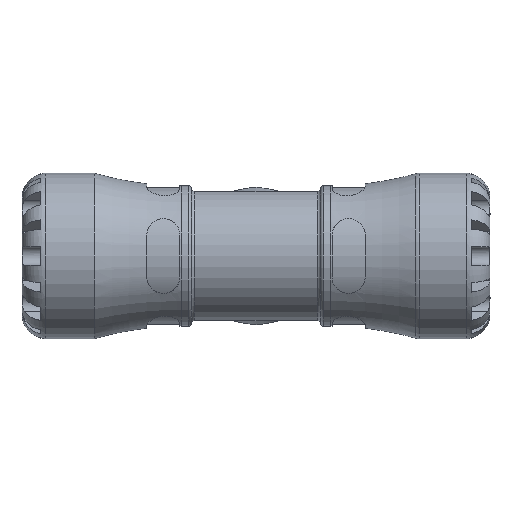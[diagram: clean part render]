
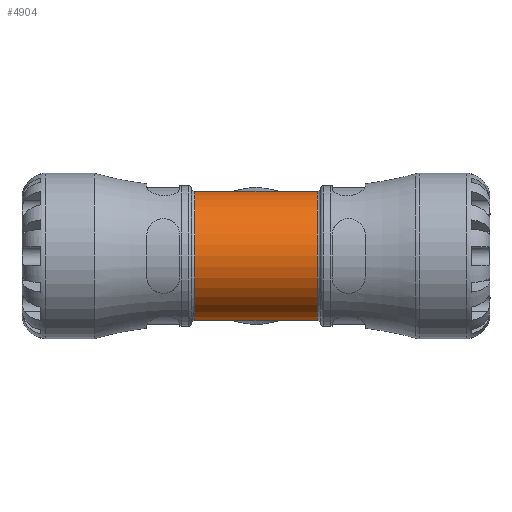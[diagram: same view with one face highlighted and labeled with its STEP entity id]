
A CAD part, front view. The second image highlights one B-rep face of the part: STEP entity #4904.
In plain terms, the highlighted cylindrical face has radius 27.3 mm (diameter 54.6 mm), a full revolution.
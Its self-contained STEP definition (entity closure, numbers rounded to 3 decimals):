
#407=FACE_BOUND('',#1323,.T.);
#426=LINE('',#7461,#682);
#682=VECTOR('',#5821,27.3);
#937=CYLINDRICAL_SURFACE('',#5214,27.3);
#1035=FACE_OUTER_BOUND('',#1322,.T.);
#1322=EDGE_LOOP('',(#3393,#3394,#3395,#3396));
#1323=EDGE_LOOP('',(#3397));
#1626=B_SPLINE_CURVE_WITH_KNOTS('',3,(#7420,#7421,#7422,#7423,#7424,#7425,
#7426,#7427,#7428,#7429,#7430,#7431,#7432,#7433,#7434,#7435,#7436,#7437,
#7438,#7439,#7440,#7441,#7442,#7443,#7444,#7445,#7446),.UNSPECIFIED.,.T.,
 .F.,(4,1,1,1,1,1,1,1,1,1,1,1,1,1,1,1,1,1,1,1,1,1,1,1,4),(-14.744,
-14.217,-13.691,-12.638,-12.111,
-11.584,-11.058,-10.531,-9.829,
-9.127,-8.425,-8.074,-7.723,
-7.372,-7.021,-6.319,-5.617,
-4.915,-4.213,-3.51,-2.808,
-2.106,-1.053,-0.527,0.),
 .UNSPECIFIED.);
#1825=CIRCLE('',#5215,27.3);
#1826=CIRCLE('',#5216,27.3);
#2129=VERTEX_POINT('',#7385);
#2136=VERTEX_POINT('',#7458);
#2137=VERTEX_POINT('',#7460);
#2621=EDGE_CURVE('',#2129,#2129,#1626,.T.);
#2627=EDGE_CURVE('',#2136,#2136,#1825,.T.);
#2628=EDGE_CURVE('',#2136,#2137,#426,.T.);
#2629=EDGE_CURVE('',#2137,#2137,#1826,.T.);
#3393=ORIENTED_EDGE('',*,*,#2627,.F.);
#3394=ORIENTED_EDGE('',*,*,#2628,.T.);
#3395=ORIENTED_EDGE('',*,*,#2629,.F.);
#3396=ORIENTED_EDGE('',*,*,#2628,.F.);
#3397=ORIENTED_EDGE('',*,*,#2621,.F.);
#4904=ADVANCED_FACE('',(#1035,#407),#937,.T.);
#5214=AXIS2_PLACEMENT_3D('',#7457,#5817,#5818);
#5215=AXIS2_PLACEMENT_3D('',#7459,#5819,#5820);
#5216=AXIS2_PLACEMENT_3D('',#7462,#5822,#5823);
#5817=DIRECTION('center_axis',(1.,0.,0.));
#5818=DIRECTION('ref_axis',(0.,1.,0.));
#5819=DIRECTION('center_axis',(1.,0.,0.));
#5820=DIRECTION('ref_axis',(0.,1.,0.));
#5821=DIRECTION('',(-1.,0.,0.));
#5822=DIRECTION('center_axis',(-1.,0.,0.));
#5823=DIRECTION('ref_axis',(0.,1.,0.));
#7385=CARTESIAN_POINT('',(0.,15.11,22.737));
#7420=CARTESIAN_POINT('Ctrl Pts',(0.,15.11,
22.737));
#7421=CARTESIAN_POINT('Ctrl Pts',(1.864,15.11,22.737));
#7422=CARTESIAN_POINT('Ctrl Pts',(5.566,15.812,22.286));
#7423=CARTESIAN_POINT('Ctrl Pts',(11.973,18.833,19.971));
#7424=CARTESIAN_POINT('Ctrl Pts',(17.158,22.492,15.992));
#7425=CARTESIAN_POINT('Ctrl Pts',(20.963,25.401,10.4));
#7426=CARTESIAN_POINT('Ctrl Pts',(22.864,26.93,5.449));
#7427=CARTESIAN_POINT('Ctrl Pts',(23.548,27.485,0.002));
#7428=CARTESIAN_POINT('Ctrl Pts',(22.789,26.869,-6.058));
#7429=CARTESIAN_POINT('Ctrl Pts',(20.214,24.804,-11.993));
#7430=CARTESIAN_POINT('Ctrl Pts',(15.891,21.564,-17.044));
#7431=CARTESIAN_POINT('Ctrl Pts',(11.367,18.616,-20.059));
#7432=CARTESIAN_POINT('Ctrl Pts',(7.18,16.567,-21.72));
#7433=CARTESIAN_POINT('Ctrl Pts',(3.724,15.416,-22.538));
#7434=CARTESIAN_POINT('Ctrl Pts',(0.003,14.955,
-22.838));
#7435=CARTESIAN_POINT('Ctrl Pts',(-4.973,15.573,-22.437));
#7436=CARTESIAN_POINT('Ctrl Pts',(-10.468,18.037,-20.656));
#7437=CARTESIAN_POINT('Ctrl Pts',(-15.887,21.559,-17.048));
#7438=CARTESIAN_POINT('Ctrl Pts',(-20.213,24.805,-11.991));
#7439=CARTESIAN_POINT('Ctrl Pts',(-23.027,27.057,-5.522));
#7440=CARTESIAN_POINT('Ctrl Pts',(-23.651,27.573,1.871));
#7441=CARTESIAN_POINT('Ctrl Pts',(-21.851,26.1,8.923));
#7442=CARTESIAN_POINT('Ctrl Pts',(-17.59,22.794,15.662));
#7443=CARTESIAN_POINT('Ctrl Pts',(-11.974,18.835,19.97));
#7444=CARTESIAN_POINT('Ctrl Pts',(-5.566,15.811,22.287));
#7445=CARTESIAN_POINT('Ctrl Pts',(-1.864,15.11,22.737));
#7446=CARTESIAN_POINT('Ctrl Pts',(0.,15.11,
22.737));
#7457=CARTESIAN_POINT('Origin',(13.65,0.,0.));
#7458=CARTESIAN_POINT('',(25.922,-27.3,0.));
#7459=CARTESIAN_POINT('Origin',(25.922,0.,0.));
#7460=CARTESIAN_POINT('',(-25.922,-27.3,0.));
#7461=CARTESIAN_POINT('',(13.65,-27.3,0.));
#7462=CARTESIAN_POINT('Origin',(-25.922,0.,0.));
